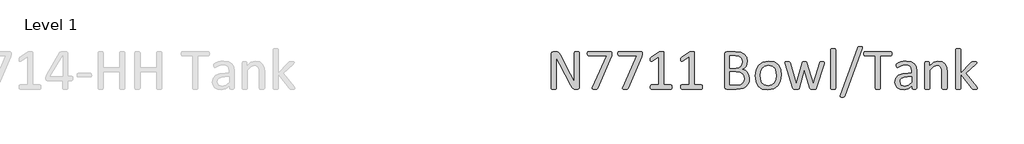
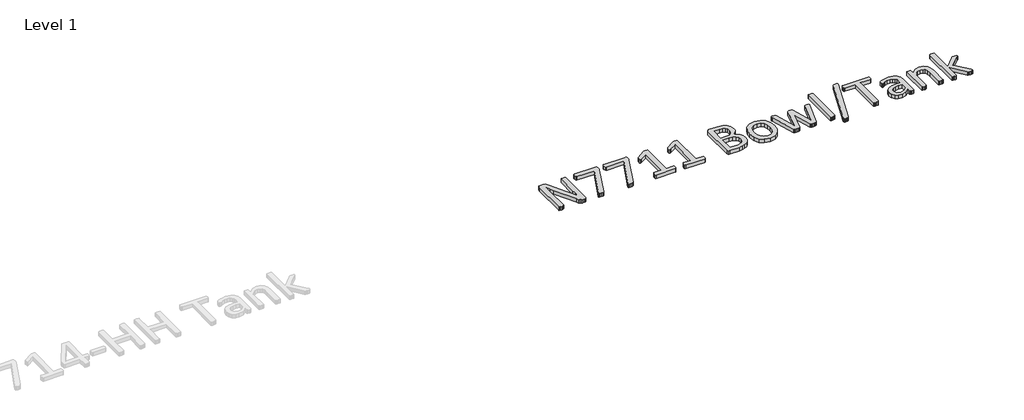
# One storey, part 3 of 3: 1 proxy.
"""IFC4 building model written with IfcOpenShell, lengths in millimetres."""

from ifc_helpers import new_model, si_unit, origin, origin_with_axes, place, context, project, spatial, polyline, outline, extrude, element, save

model = new_model("IFC4")

# Units and contexts
model_context = context("Model", 3, world=origin())
ifc_project = project(units=[si_unit("LENGTHUNIT", "METRE", prefix="MILLI")], contexts=[model_context])

# Site, building, storey
site = spatial("IfcSite", under=ifc_project)
building = spatial("IfcBuilding", under=site)
storey = spatial("IfcBuildingStorey", under=building, Name="Level 1", Elevation=0.0)

# Proxy
placement = place(None, origin())
element("IfcBuildingElementProxy", 1, Name="150MM CALIBRI", ObjectType="150MM CALIBRI", at=placement, inside=storey, context=model_context, shape_type="SweptSolid", body=[
    extrude(outline(polyline([(37702.4142778, -15617.8285664), (37701.6298259, -15621.7059998), (37699.5902511, -15624.3507231), (37696.7662245, -15625.8523881), (37693.6732429, -15626.3006463), (37687.0390216, -15626.3006463), (37681.5926845, -15625.6506719), (37677.1549284, -15623.2749034), (37672.9637143, -15618.5906053), (37668.5707839, -15611.1495192), (37624.1932224, -15526.697675), (37617.2003946, -15512.9809741), (37610.6109991, -15499.0401442), (37610.6109991, -15515.8946524), (37610.6109991, -15533.0181155), (37610.6109991, -15622.6249291), (37610.1179151, -15624.1714198), (37608.4593597, -15625.3144782), (37605.3887911, -15626.0092784), (37600.5251897, -15626.3006463), (37595.6391753, -15626.0092784), (37592.6134325, -15625.3144782), (37591.0221159, -15624.1714198), (37590.5290319, -15622.6249291), (37590.5290319, -15485.5923983), (37593.1737552, -15479.0702416), (37598.956286, -15477.1203184), (37608.8627921, -15477.1203184), (37614.7125616, -15477.7030541), (37618.9261886, -15479.5857385), (37622.5346671, -15483.2390428), (37626.1207327, -15489.1336381), (37660.1883556, -15554.3552057), (37666.2846671, -15566.0099188), (37671.9103075, -15577.1939608), (37677.2894059, -15588.0418092), (37682.5564397, -15598.777593), (37682.3995493, -15579.9507487), (37682.3323106, -15561.1239045), (37682.3323106, -15480.7960356), (37684.4839499, -15478.0840735), (37687.5545186, -15477.3444475), (37692.5525974, -15477.1203184), (37697.2593085, -15477.3444475), (37700.3298772, -15478.0840735), (37701.9211938, -15479.2943707), (37702.4142778, -15617.8285664)])), origin_with_axes(), (0.0, 0.0, 1.0), 15.0),
    extrude(outline(polyline([(37831.5126384, -15485.5475725), (37831.3333352, -15489.2681155), (37830.862664, -15492.4731616), (37830.0557993, -15495.4316657), (37828.8679151, -15498.4574086), (37774.9872798, -15621.8180643), (37773.5528536, -15624.0593553), (37771.3563884, -15625.4265428), (37767.9496261, -15626.121343), (37762.8843085, -15626.3006463), (37756.7431712, -15625.9644526), (37753.560538, -15624.86622), (37752.6864345, -15623.0283614), (37753.5157122, -15620.4284639), (37810.1307224, -15494.3334332), (37738.3645852, -15494.3334332), (37735.0698874, -15492.0473164), (37733.9716548, -15485.68205), (37734.2630227, -15481.8942682), (37735.1371261, -15479.2271319), (37736.5267265, -15477.6358153), (37738.3645852, -15477.1203184), (37825.5059786, -15477.1203184), (37828.3300052, -15477.456512), (37830.1902768, -15478.8236995), (37831.1764448, -15481.44601), (37831.5126384, -15485.5475725)])), origin_with_axes(), (0.0, 0.0, 1.0), 15.0),
    extrude(outline(polyline([(37952.0044417, -15485.5475725), (37951.8251384, -15489.2681155), (37951.3544673, -15492.4731616), (37950.5476026, -15495.4316657), (37949.3597184, -15498.4574086), (37895.4790831, -15621.8180643), (37894.0446569, -15624.0593553), (37891.8481917, -15625.4265428), (37888.4414294, -15626.121343), (37883.3761118, -15626.3006463), (37877.2349745, -15625.9644526), (37874.0523413, -15624.86622), (37873.1782378, -15623.0283614), (37874.0075155, -15620.4284639), (37930.6225257, -15494.3334332), (37858.8563884, -15494.3334332), (37855.5616907, -15492.0473164), (37854.4634581, -15485.68205), (37854.7548259, -15481.8942682), (37855.6289294, -15479.2271319), (37857.0185298, -15477.6358153), (37858.8563884, -15477.1203184), (37945.9977819, -15477.1203184), (37948.8218085, -15477.456512), (37950.68208, -15478.8236995), (37951.6682481, -15481.44601), (37952.0044417, -15485.5475725)])), origin_with_axes(), (0.0, 0.0, 1.0), 15.0),
    extrude(outline(polyline([(38069.6273925, -15617.8285664), (38069.2911989, -15621.8180643), (38068.3722696, -15624.4403748), (38067.0499079, -15625.874801), (38065.5034171, -15626.3006463), (37987.6857942, -15626.3006463), (37984.8841804, -15624.4403748), (37983.8980124, -15621.8180643), (37983.5618188, -15617.8285664), (37983.8980124, -15613.9511329), (37984.749703, -15611.2615838), (37985.982413, -15609.6478543), (37987.5961425, -15609.0875315), (38017.9880483, -15609.0875315), (38017.9880483, -15497.2022856), (37990.3305175, -15514.4154004), (37986.9461681, -15515.7825879), (37984.8841804, -15515.2670909), (37983.8307737, -15512.8240838), (37983.5618188, -15508.543218), (37983.7187091, -15505.2709332), (37984.2117931, -15503.0072293), (37985.1531354, -15501.4159127), (37986.7892778, -15500.0711381), (38019.8259069, -15478.465093), (38022.7619981, -15477.478925), (38025.2050052, -15477.1875571), (38028.7014192, -15477.1203184), (38033.3857173, -15477.3444475), (38036.2993956, -15477.972009), (38037.7114089, -15479.0030028), (38037.7114089, -15609.0875315), (38065.4137655, -15609.0875315), (38067.1619724, -15609.6478543), (38068.506747, -15611.2615838), (38069.3360247, -15613.9511329), (38069.6273925, -15617.8285664)])), origin_with_axes(), (0.0, 0.0, 1.0), 15.0),
    extrude(outline(polyline([(38190.1191958, -15617.8285664), (38189.7830022, -15621.8180643), (38188.8640729, -15624.4403748), (38187.5417112, -15625.874801), (38185.9952204, -15626.3006463), (38108.1775974, -15626.3006463), (38105.3759837, -15624.4403748), (38104.3898157, -15621.8180643), (38104.053622, -15617.8285664), (38104.3898157, -15613.9511329), (38105.2415063, -15611.2615838), (38106.4742163, -15609.6478543), (38108.0879458, -15609.0875315), (38138.4798515, -15609.0875315), (38138.4798515, -15497.2022856), (38110.8223208, -15514.4154004), (38107.4379714, -15515.7825879), (38105.3759837, -15515.2670909), (38104.322577, -15512.8240838), (38104.053622, -15508.543218), (38104.2105124, -15505.2709332), (38104.7035964, -15503.0072293), (38105.6449386, -15501.4159127), (38107.2810811, -15500.0711381), (38140.3177102, -15478.465093), (38143.2538013, -15477.478925), (38145.6968085, -15477.1875571), (38149.1932224, -15477.1203184), (38153.8775206, -15477.3444475), (38156.7911989, -15477.972009), (38158.2032122, -15479.0030028), (38158.2032122, -15609.0875315), (38185.9055688, -15609.0875315), (38187.6537757, -15609.6478543), (38188.9985503, -15611.2615838), (38189.827828, -15613.9511329), (38190.1191958, -15617.8285664)])), origin_with_axes(), (0.0, 0.0, 1.0), 15.0),
    extrude(outline(polyline([(38376.5946056, -15584.11955), (38374.8239858, -15596.8949086), (38369.8483198, -15607.4289762), (38362.1382788, -15615.6096883), (38351.9628177, -15621.5266965), (38339.8374335, -15625.112762), (38325.044913, -15626.3006463), (38286.3602306, -15626.3006463), (38281.4069776, -15624.5076135), (38279.053622, -15618.2319987), (38279.053622, -15485.1889659), (38281.4293905, -15478.9133512), (38286.4498823, -15477.1203184), (38320.338202, -15477.1203184), (38342.2804407, -15479.697803), (38356.5126384, -15487.1837149), (38365.0967829, -15499.2418604), (38367.9880483, -15515.4015684), (38366.7105124, -15525.689094), (38362.9675565, -15534.7663225), (38356.7367675, -15542.2074086), (38348.1302102, -15547.5865069), (38359.2470134, -15551.7328952), (38368.2570032, -15559.4205233), (38374.3533147, -15570.3356104), (38376.5946056, -15584.11955)]), holes=[polyline([(38347.9060811, -15518.0911176), (38346.4044161, -15508.1846114), (38341.697705, -15500.6762866), (38333.3152768, -15495.9695756), (38319.6209888, -15494.3334332), (38299.1355893, -15494.3334332), (38299.1355893, -15543.103925), (38321.6829765, -15543.103925), (38334.0997286, -15541.0643502), (38341.9218341, -15535.5956002), (38346.4716548, -15527.5717784), (38347.9060811, -15518.0911176)]), polyline([(38356.5126384, -15584.2988532), (38354.4058249, -15572.7337918), (38348.2422747, -15564.3513635), (38338.0668136, -15559.1963942), (38322.6691446, -15557.4481873), (38299.1355893, -15557.4481873), (38299.1355893, -15609.0875315), (38327.6896364, -15609.0875315), (38339.478827, -15607.4962149), (38348.3319263, -15602.7895039), (38354.3385862, -15595.034637), (38356.5126384, -15584.2988532)])]), origin_with_axes(), (0.0, 0.0, 1.0), 15.0),
    extrude(outline(polyline([(38502.8241138, -15570.6718041), (38499.5070032, -15594.1829465), (38489.5780841, -15612.69601), (38473.0373567, -15624.8213942), (38450.0192983, -15629.1694987), (38427.8305175, -15625.3368911), (38412.051829, -15614.197675), (38402.6384069, -15596.4466504), (38399.5454253, -15572.7786176), (38402.8177102, -15549.2674752), (38412.6793905, -15530.7768245), (38429.1528792, -15518.7186791), (38452.2157634, -15514.4154004), (38474.4269571, -15518.2480079), (38490.2056456, -15529.3872241), (38499.6638936, -15547.1382487), (38502.8241138, -15570.6718041)]), holes=[polyline([(38482.7421466, -15572.0165786), (38481.1956559, -15556.4396063), (38476.1079253, -15543.5745961), (38466.5376128, -15534.8335612), (38451.4537245, -15531.6285151), (38437.1318751, -15534.5646063), (38427.2701948, -15542.8573829), (38421.510077, -15555.5430899), (38419.6273925, -15571.5683204), (38421.1738833, -15587.2349444), (38426.3064397, -15600.0551289), (38435.9439909, -15608.7513379), (38451.0054663, -15611.956384), (38465.2824899, -15609.0202928), (38475.2114089, -15600.7947549), (38480.9267009, -15588.1538737), (38482.7421466, -15572.0165786)])]), origin_with_axes(), (0.0, 0.0, 1.0), 15.0),
    extrude(outline(polyline([(38673.2967061, -15520.5565377), (38673.072577, -15522.5064608), (38672.2657122, -15525.3080745), (38641.8289806, -15622.2214967), (38640.7307481, -15624.2610715), (38638.6687604, -15625.4937815), (38635.0602819, -15626.121343), (38629.322577, -15626.3006463), (38623.33833, -15626.0765172), (38619.5057224, -15625.4041299), (38617.376496, -15624.1938327), (38616.3230893, -15622.3111483), (38594.6273925, -15549.8277979), (38574.2764704, -15622.3111483), (38573.2006507, -15624.3058973), (38570.9593597, -15625.5386073), (38567.1267522, -15626.1437559), (38561.3218085, -15626.3006463), (38555.494452, -15626.0765172), (38551.8187347, -15625.4041299), (38549.7119212, -15624.1490069), (38548.6809274, -15622.2214967), (38518.4683249, -15525.3080745), (38517.6614602, -15522.5064608), (38517.4373311, -15520.5565377), (38517.8855893, -15518.9428082), (38519.43208, -15517.9118143), (38522.3681712, -15517.3963174), (38526.8507532, -15517.2842528), (38532.0281354, -15517.4635561), (38535.0090524, -15518.0238789), (38536.4883044, -15519.1445243), (38537.2951692, -15520.9151442), (38562.2183249, -15605.1876852), (38585.5277511, -15520.9151442), (38586.312203, -15519.1445243), (38587.8586938, -15518.0238789), (38590.6603075, -15517.4635561), (38595.0756507, -15517.2842528), (38599.6254714, -15517.4635561), (38602.4270852, -15518.0238789), (38603.9287501, -15519.0996985), (38604.6235503, -15520.6910151), (38629.322577, -15605.1876852), (38654.2457327, -15520.9151442), (38654.9853587, -15519.1445243), (38656.5990882, -15518.0238789), (38659.5800052, -15517.4635561), (38664.4660196, -15517.2842528), (38668.8813628, -15517.3963174), (38671.5260862, -15517.9566401), (38672.8932737, -15518.987634), (38673.2967061, -15520.5565377)])), origin_with_axes(), (0.0, 0.0, 1.0), 15.0),
    extrude(outline(polyline([(38717.9880483, -15622.7594065), (38717.4949643, -15624.2834844), (38715.9036477, -15625.381717), (38712.8779048, -15626.0765172), (38707.9022388, -15626.3006463), (38703.0162245, -15626.0765172), (38699.9232429, -15625.381717), (38698.3319263, -15624.2834844), (38698.3319263, -15469.3206258), (38698.3319263, -15467.7068963), (38699.9232429, -15466.5638379), (38703.0162245, -15465.8690377), (38707.9022388, -15465.6449086), (38712.8779048, -15465.8690377), (38715.9036477, -15466.5638379), (38717.4949643, -15467.7068963), (38717.9880483, -15469.3206258), (38717.9880483, -15622.7594065)])), origin_with_axes(), (0.0, 0.0, 1.0), 15.0),
    extrude(outline(polyline([(38754.5210913, -15653.2857897), (38753.2883813, -15655.6167323), (38751.4056968, -15656.939094), (38748.5816702, -15657.6338942), (38744.5249335, -15657.8580233), (38739.7509837, -15657.4545909), (38736.8148925, -15656.3115325), (38735.5597696, -15654.4736739), (38736.0080278, -15651.8961893), (38805.4880483, -15461.6105848), (38806.7207583, -15459.2796422), (38808.5586169, -15457.9124547), (38811.3602306, -15457.2176545), (38815.4842061, -15457.0383512), (38820.1909171, -15457.4417836), (38823.0597696, -15458.5400161), (38824.3373054, -15460.3778748), (38824.0011118, -15463.0001852), (38754.5210913, -15653.2857897)])), origin_with_axes(), (0.0, 0.0, 1.0), 15.0),
    extrude(outline(polyline([(38941.7585401, -15485.8613532), (38941.534411, -15489.7387866), (38940.7947849, -15492.38351), (38939.5172491, -15493.862762), (38937.8586938, -15494.3334332), (38895.8569007, -15494.3334332), (38895.8569007, -15622.6249291), (38895.3862296, -15624.2386586), (38893.7500872, -15625.3144782), (38890.6571056, -15626.0092784), (38885.8159171, -15626.3006463), (38881.0195544, -15626.0092784), (38877.881747, -15625.3144782), (38876.2456046, -15624.2386586), (38875.7749335, -15622.6249291), (38875.7749335, -15494.3334332), (38833.7731405, -15494.3334332), (38832.1145852, -15493.862762), (38830.904288, -15492.38351), (38830.164662, -15489.7387866), (38829.8732942, -15485.8613532), (38830.164662, -15481.8942682), (38830.9267009, -15479.1150674), (38832.1369981, -15477.5909895), (38833.8179663, -15477.1203184), (38937.8138679, -15477.1203184), (38939.4948362, -15477.5909895), (38940.772372, -15479.1150674), (38941.534411, -15481.8942682), (38941.7585401, -15485.8613532)])), origin_with_axes(), (0.0, 0.0, 1.0), 15.0),
    extrude(outline(polyline([(39039.2995237, -15622.8490582), (39038.3133556, -15624.9334588), (39035.6238065, -15625.9644526), (39030.6033147, -15626.3006463), (39025.5155841, -15625.9644526), (39022.7587962, -15624.9334588), (39021.9071056, -15622.8490582), (39021.9071056, -15612.5391196), (39006.8008044, -15624.4627877), (38989.1394315, -15629.1694987), (38974.3244981, -15627.0402723), (38963.0508044, -15620.8767221), (38955.8114345, -15610.9702159), (38953.2339499, -15597.6121217), (38956.7976026, -15582.4161688), (38967.0178895, -15571.7027979), (38983.3120749, -15565.3151186), (39005.0077716, -15563.1858922), (39019.2175565, -15563.1858922), (39019.2175565, -15554.6241606), (39017.9624335, -15543.4177057), (39013.9281097, -15535.3042323), (39006.7335657, -15530.418218), (38995.8633044, -15528.7596627), (38983.4241395, -15530.5526954), (38973.7865882, -15534.4973676), (38966.8609991, -15538.4420397), (38962.7370237, -15540.2350725), (38961.1232942, -15539.7644014), (38959.9354099, -15538.3299752), (38959.1957839, -15535.8645551), (38958.9716548, -15532.5698573), (38959.3750872, -15527.8631463), (38961.3474233, -15524.5684485), (38966.7265216, -15521.206512), (38975.5123823, -15517.8894014), (38986.3826436, -15515.4015684), (38998.2838987, -15514.4154004), (39017.334872, -15516.9480592), (39030.0429919, -15524.3443194), (39037.1030585, -15536.4248778), (39039.2995237, -15553.279386), (39039.2995237, -15622.8490582)]), holes=[polyline([(39019.2175565, -15577.5301545), (39003.2595647, -15577.5301545), (38989.9462962, -15578.8525161), (38980.555287, -15582.7523625), (38975.0641241, -15588.9383256), (38973.3159171, -15597.2535151), (38978.3364089, -15610.0736995), (38992.4117163, -15614.8252364), (39006.0387655, -15611.0374547), (39019.2175565, -15599.4499803), (39019.2175565, -15577.5301545)])]), origin_with_axes(), (0.0, 0.0, 1.0), 15.0),
    extrude(outline(polyline([(39159.791327, -15622.7594065), (39159.2982429, -15624.2834844), (39157.7069263, -15625.381717), (39154.6811835, -15626.0765172), (39149.7951692, -15626.3006463), (39144.8195032, -15626.0765172), (39141.7937604, -15625.4041299), (39140.2024438, -15624.3283102), (39139.7093597, -15622.7594065), (39139.7093597, -15562.8721114), (39138.3869981, -15548.7968041), (39134.5543905, -15539.5850981), (39128.0322337, -15533.6680899), (39118.775702, -15531.6285151), (39105.1710657, -15536.626594), (39090.9388679, -15551.30705), (39090.9388679, -15622.7594065), (39090.4457839, -15624.3283102), (39088.8544673, -15625.4041299), (39085.8287245, -15626.0765172), (39080.8530585, -15626.3006463), (39075.9670442, -15626.0765172), (39072.8740626, -15625.4041299), (39071.282746, -15624.3283102), (39070.8569007, -15520.7806668), (39072.6723464, -15518.1359434), (39075.4739602, -15517.4635561), (39080.0013679, -15517.2842528), (39084.4391241, -15517.4635561), (39087.1734991, -15518.1359434), (39088.5855124, -15519.2565889), (39089.0113577, -15534.2732385), (39106.1572337, -15519.1893502), (39123.3927614, -15514.4154004), (39140.5162245, -15517.9118143), (39151.7675052, -15527.2579977), (39157.9310554, -15540.9522856), (39159.791327, -15559.8239557), (39159.791327, -15622.7594065)])), origin_with_axes(), (0.0, 0.0, 1.0), 15.0),
    extrude(outline(polyline([(39280.2831302, -15622.6697549), (39279.8124591, -15624.2610715), (39278.2659684, -15625.4041299), (39275.2402255, -15626.0765172), (39270.2869724, -15626.3006463), (39265.176829, -15626.121343), (39261.7700667, -15625.5610202), (39259.5287757, -15624.4403748), (39257.959872, -15622.6697549), (39214.2995237, -15566.2340479), (39214.2995237, -15622.8042323), (39213.8064397, -15624.3283102), (39212.2151231, -15625.4041299), (39209.1893802, -15626.0765172), (39204.2137143, -15626.3006463), (39199.3276999, -15626.0765172), (39196.2347184, -15625.381717), (39194.6434018, -15624.2834844), (39194.6434018, -15469.3206258), (39194.6434018, -15467.7068963), (39196.2347184, -15466.5638379), (39199.3276999, -15465.8690377), (39204.2137143, -15465.6449086), (39209.1893802, -15465.8690377), (39212.2151231, -15466.5638379), (39213.8064397, -15467.7293092), (39214.2995237, -15469.3654516), (39214.2995237, -15563.6341504), (39254.1945032, -15521.228925), (39256.1892522, -15519.3686534), (39258.6994981, -15518.1359434), (39262.1510862, -15517.4635561), (39266.9698618, -15517.2842528), (39271.900702, -15517.4635561), (39275.1057481, -15518.0238789), (39276.8763679, -15519.0324598), (39277.4142778, -15520.6910151), (39276.6298259, -15523.4029772), (39274.0075155, -15526.5631975), (39234.3814909, -15563.4996729), (39277.4591036, -15617.3354823), (39279.6331559, -15620.4508768), (39280.2831302, -15622.6697549)])), origin_with_axes(), (0.0, 0.0, 1.0), 15.0),
])

save(model, "model.ifc")
